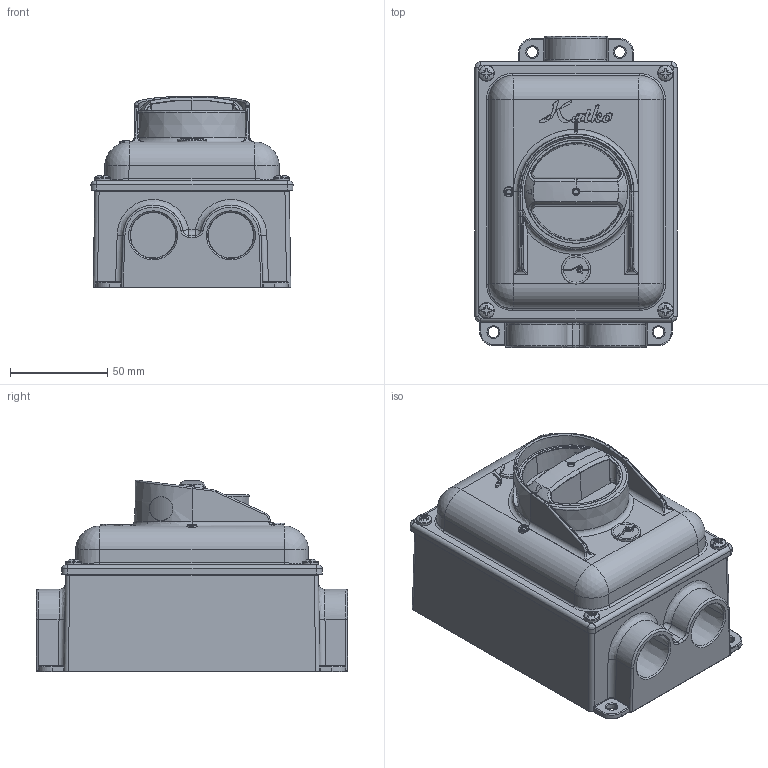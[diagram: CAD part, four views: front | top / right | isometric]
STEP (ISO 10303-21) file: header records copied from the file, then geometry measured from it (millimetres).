
FILE_DESCRIPTION((''),'2;1');
FILE_NAME('1581718','2026-02-19T16:59:48',('SakuKorhonen'),(''),'CREO PARAMETRIC BY PTC INC, 2025323','CREO PARAMETRIC BY PTC INC, 2025323','');
FILE_SCHEMA(('AP242_MANAGED_MODEL_BASED_3D_ENGINEERING_MIM_LF { 1 0 10303 442 1 1 4 }'));
Products named in the file (1): 1581718
Bounding box: 103.93 x 160 x 98.58 mm (x, y, z)
Volume: 1003622.8 mm3; surface area: 77682.1 mm2
Topology: 1 solids, 2 shells, 636 faces, 1543 edges, 931 vertices
Faces by surface type: plane 196, bspline 194, cylinder 135, cone 51, torus 38, sphere 16, extrusion 4, revolution 2
Entity records: 39082 total; most frequent: CARTESIAN_POINT 24495, ORIENTED_EDGE 3086, DIRECTION 2427, EDGE_CURVE 1543, VERTEX_POINT 931, AXIS2_PLACEMENT_3D 919, EDGE_LOOP 664, FACE_OUTER_BOUND 636
